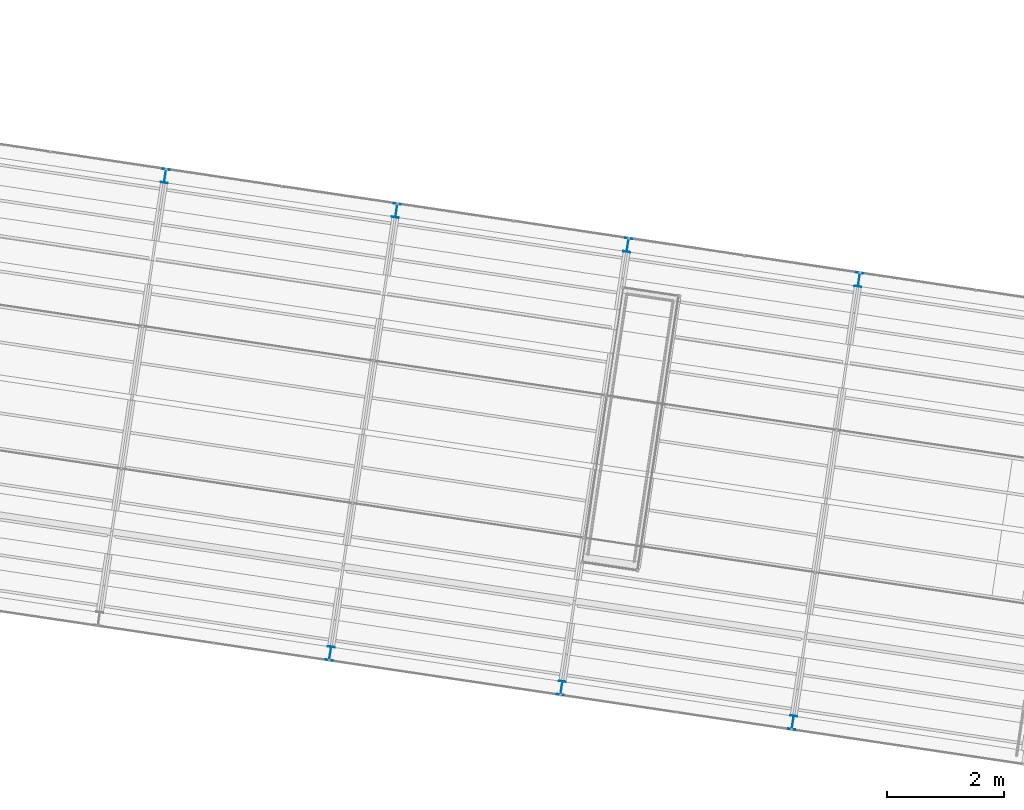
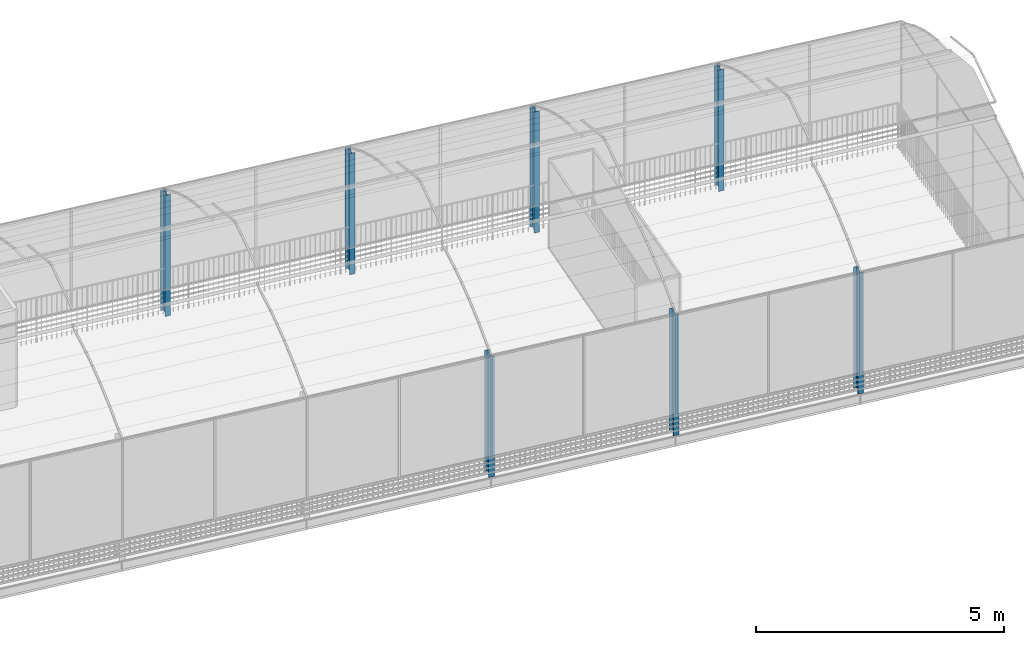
# One storey, part 2 of 34: 7 columns.
"""IFC4 building model written with IfcOpenShell, lengths in metres."""

import ifcopenshell
import ifcopenshell.guid

model = None  # the IFC model being written
_history = None  # IfcOwnerHistory: only IFC2X3 demands one
_inside = {}  # id of a spatial element -> (the spatial element, [elements in it])
_under = {}  # id of a project, library or spatial element -> (it, [spatial elements below it])
_declared = {}  # id of a project -> (the project, [libraries it declares])
_typed = {}  # id of a type object -> (the type object, [elements of that type])
_made_of = {}  # id of a material, layer set ... -> (it, [elements and type objects made of it])


def new_model(schema):
    """Start an empty IFC model of exactly this schema.

    Asked for "IFC4X3", IfcOpenShell would pick the latest addendum, in which some entities
    have other attributes; the version numbers below select the first issue.
    IFC2X3 requires an IfcOwnerHistory on every rooted entity: one is made here for all.
    """
    global model, _history
    if schema == "IFC4X3":
        model = ifcopenshell.file(schema_version=(4, 3, 0, 0))
    else:
        model = ifcopenshell.file(schema=schema)
    _inside.clear()
    _under.clear()
    _declared.clear()
    _typed.clear()
    _made_of.clear()
    _history = None
    if model.schema == "IFC2X3":
        org = make("IfcOrganization", Name="unknown")
        user = make(
            "IfcPersonAndOrganization",
            ThePerson=make("IfcPerson", FamilyName="unknown"),
            TheOrganization=org,
        )
        app = make(
            "IfcApplication",
            ApplicationDeveloper=org,
            Version="unknown",
            ApplicationFullName="unknown",
            ApplicationIdentifier="unknown",
        )
        _history = make(
            "IfcOwnerHistory",
            OwningUser=user,
            OwningApplication=app,
            ChangeAction="ADDED",
            CreationDate=0,
        )
    return model


def make(cls, **values):
    """One entity of the class cls with the attributes given. An attribute that is None is left unset."""
    return model.create_entity(
        cls, **{name: value for name, value in values.items() if value is not None}
    )


def rooted(cls, **values):
    """An entity with a GlobalId (a new one), such as an element, a storey or a relation."""
    return make(cls, GlobalId=ifcopenshell.guid.new(), OwnerHistory=_history, **values)


def si_unit(unit_type, name, prefix=None):
    """IfcSIUnit, for example si_unit("LENGTHUNIT", "METRE", prefix="MILLI")."""
    return make("IfcSIUnit", UnitType=unit_type, Prefix=prefix, Name=name)


def assignment(units):
    """IfcUnitAssignment: the units of a project."""
    return None if units is None else make("IfcUnitAssignment", Units=units)


def point(xyz):
    """IfcCartesianPoint."""
    return None if xyz is None else make("IfcCartesianPoint", Coordinates=xyz)


def direction(xyz):
    """IfcDirection."""
    return None if xyz is None else make("IfcDirection", DirectionRatios=xyz)


def frame(location, z_axis=None, x_axis=None):
    """IfcAxis2Placement3D, a coordinate frame: its origin and axes. An axis left out is left unset."""
    return make(
        "IfcAxis2Placement3D",
        Location=point(location),
        Axis=direction(z_axis),
        RefDirection=direction(x_axis),
    )


def origin_with_axes():
    """The frame at (0, 0, 0) with the z axis (0, 0, 1) and the x axis (1, 0, 0) written out."""
    return frame((0.0, 0.0, 0.0), z_axis=(0.0, 0.0, 1.0), x_axis=(1.0, 0.0, 0.0))


def place(relative_to, where):
    """IfcLocalPlacement: puts the frame where relative to a parent placement (None: the world)."""
    return make(
        "IfcLocalPlacement", PlacementRelTo=relative_to, RelativePlacement=where
    )


def context(
    kind, dimensions, precision=None, world=None, true_north=None, identifier=None
):
    """IfcGeometricRepresentationContext, for example the 3D "Model" context."""
    return make(
        "IfcGeometricRepresentationContext",
        ContextIdentifier=identifier,
        ContextType=kind,
        CoordinateSpaceDimension=dimensions,
        Precision=precision,
        WorldCoordinateSystem=world,
        TrueNorth=true_north,
    )


def subcontext(parent, identifier, kind, view, scale=None):
    """IfcGeometricRepresentationSubContext, for example "Body" below "Model"."""
    return make(
        "IfcGeometricRepresentationSubContext",
        ContextIdentifier=identifier,
        ContextType=kind,
        ParentContext=parent,
        TargetScale=scale,
        TargetView=view,
    )


def project(units=None, contexts=None):
    """IfcProject with its units and contexts."""
    return rooted(
        "IfcProject",
        Name="project",
        RepresentationContexts=contexts,
        UnitsInContext=assignment(units),
    )


def spatial(cls, under=None, at=None, **own):
    """A site, building, storey or space (cls), placed at a placement, below another one or the project."""
    s = rooted(cls, ObjectPlacement=at, **own)
    if under is not None:
        _under.setdefault(under.id(), (under, []))[1].append(s)
    return s


def profile(cls, at=None, kind="AREA", **sizes):
    """A parametric profile (cls). Its sizes go by their IFC names, for example OverallWidth=200.0."""
    return make(cls, ProfileType=kind, Position=at, **sizes)


def i_section(**sizes):
    """IfcIShapeProfileDef."""
    return profile("IfcIShapeProfileDef", **sizes)


def extrude(swept, where, along, depth):
    """IfcExtrudedAreaSolid: the profile swept, set in the frame where, extruded along a direction by depth."""
    return make(
        "IfcExtrudedAreaSolid",
        SweptArea=swept,
        Position=where,
        ExtrudedDirection=direction(along),
        Depth=depth,
    )


def shape(context_of_items, identifier, shape_type, items):
    """IfcShapeRepresentation: the items that make up one representation, for example the "Body"."""
    return make(
        "IfcShapeRepresentation",
        ContextOfItems=context_of_items,
        RepresentationIdentifier=identifier,
        RepresentationType=shape_type,
        Items=items,
    )


def material(Name=None, Category=None):
    """IfcMaterial."""
    return make("IfcMaterial", Name=Name, Category=Category)


def material_profile(
    of_material, cross_section, Name=None, Category=None, Priority=None
):
    """IfcMaterialProfile: a cross section and its material."""
    return make(
        "IfcMaterialProfile",
        Name=Name,
        Material=of_material,
        Profile=cross_section,
        Priority=Priority,
        Category=Category,
    )


def profile_set(profiles, Name=None, composite=None):
    """IfcMaterialProfileSet."""
    return make(
        "IfcMaterialProfileSet",
        Name=Name,
        MaterialProfiles=profiles,
        CompositeProfile=composite,
    )


def profile_usage(for_profile_set, cardinal=None, extent=None):
    """IfcMaterialProfileSetUsage: how a profile set lies along its element."""
    return make(
        "IfcMaterialProfileSetUsage",
        ForProfileSet=for_profile_set,
        CardinalPoint=cardinal,
        ReferenceExtent=extent,
    )


def made_of(thing, what):
    """Note that an element or type object is made of a material, layer set ...; save() writes the relation."""
    if what is not None:
        _made_of.setdefault(what.id(), (what, []))[1].append(thing)
    return thing


def type_object(cls, material=None, **own):
    """A type object (cls), such as IfcWallType, which elements share."""
    return made_of(rooted(cls, **own), material)


def element(
    cls,
    number,
    at=None,
    inside=None,
    cuts=None,
    type_object=None,
    material=None,
    context=None,
    identifier="Body",
    shape_type=None,
    held_by="IfcProductDefinitionShape",
    body=None,
    shapes=None,
    **own,
):
    """One element of the class cls, such as IfcWall. Its Tag is "e" and its number.

    at: its placement. inside: the storey or other place that contains it. cuts: it is an
    opening in that element (IfcRelVoidsElement). A single representation is given by context,
    identifier, shape_type and body (its items); several are given by shapes. held_by: the class
    of the entity that holds the representations. save() writes the other relations.
    """
    e = rooted(cls, Tag="e%d" % number, ObjectPlacement=at, **own)
    if body is not None:
        shapes = [shape(context, identifier, shape_type, body)]
    if shapes is not None:
        e.Representation = make(held_by, Representations=shapes)
    if inside is not None:
        _inside.setdefault(inside.id(), (inside, []))[1].append(e)
    if cuts is not None:
        rooted(
            "IfcRelVoidsElement", RelatingBuildingElement=cuts, RelatedOpeningElement=e
        )
    if type_object is not None:
        _typed.setdefault(type_object.id(), (type_object, []))[1].append(e)
    return made_of(e, material)


def aggregate(whole, parts):
    """IfcRelAggregates: a whole, such as a stair, and the parts it consists of."""
    return rooted("IfcRelAggregates", RelatingObject=whole, RelatedObjects=parts)


def save(model, path):
    """Write the relations noted so far, then the file.

    IfcRelAggregates (storeys below a building ...), IfcRelContainedInSpatialStructure (elements
    in a storey), IfcRelDefinesByType, IfcRelAssociatesMaterial and IfcRelDeclares: one each for
    every whole, place, type object, material and project.
    """
    for whole, parts in _under.values():
        aggregate(whole, parts)
    for where, things in _inside.values():
        rooted(
            "IfcRelContainedInSpatialStructure",
            RelatedElements=things,
            RelatingStructure=where,
        )
    for kind, things in _typed.values():
        rooted("IfcRelDefinesByType", RelatedObjects=things, RelatingType=kind)
    for what, things in _made_of.values():
        rooted("IfcRelAssociatesMaterial", RelatedObjects=things, RelatingMaterial=what)
    for by, libraries in _declared.values():
        rooted("IfcRelDeclares", RelatingContext=by, RelatedDefinitions=libraries)
    model.write(path)


model = new_model("IFC4")

# Units and contexts
model_context = context("Model", 3, precision=1e-05, world=origin_with_axes(), true_north=direction((0.0, 1.0)))
body_context = subcontext(model_context, "Body", "Model", "MODEL_VIEW")
ifc_project = project(units=[si_unit("VOLUMEUNIT", "CUBIC_METRE"), si_unit("LENGTHUNIT", "METRE"), si_unit("AREAUNIT", "SQUARE_METRE")], contexts=[model_context])

# Site, building, storey
site_placement = place(None, origin_with_axes())
site = spatial("IfcSite", under=ifc_project, at=site_placement, Name="Lares · Rua das Mercês · artigo 4771")
building_placement = place(site_placement, frame((12.0, 10.2, 13.9), z_axis=(0.0, 0.0, 1.0), x_axis=(0.989015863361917, -0.147809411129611, 0.0)))
building = spatial("IfcBuilding", under=site, at=building_placement, Name="Casa Sobreposta")
storey_placement = place(building_placement, frame((0.0, 0.0, 3.24), z_axis=(0.0, 0.0, 1.0), x_axis=(1.0, 0.0, 0.0)))
storey = spatial("IfcBuildingStorey", under=building, at=storey_placement, Name="01 · Jardim de inverno", Elevation=17.14)

# Columns
ifc_material = material(Name="Aço pintado / Stahl lackiert", Category="steel")
ifc_material_profile = material_profile(ifc_material, i_section(OverallWidth=0.12, OverallDepth=0.24, WebThickness=0.0062, FlangeThickness=0.0098))
ifc_profile_set = profile_set([ifc_material_profile], Name="IPE240")
ifc_profile_usage_1 = profile_usage(ifc_profile_set)
column_type = type_object("IfcColumnType", Name="IPE240 / steel", PredefinedType="NOTDEFINED", material=ifc_profile_set)
column_1_placement = place(storey_placement, frame((16.0, 6.28, 0.0), z_axis=(0.0, 0.0, 1.0), x_axis=(1.0, 0.0, 0.0)))
element("IfcColumn", 1, at=column_1_placement, inside=storey, type_object=column_type, material=ifc_profile_usage_1, Name="Pilar estufa 5B · IPE240", context=body_context, shape_type="SweptSolid", body=[
    extrude(i_section(OverallWidth=0.12, OverallDepth=0.24, WebThickness=0.0062, FlangeThickness=0.0098), origin_with_axes(), (0.0, 0.0, 1.0), 2.98),
])
ifc_profile_usage_2 = profile_usage(ifc_profile_set)
column_2_placement = place(storey_placement, frame((20.0, -1.38, 0.0), z_axis=(0.0, 0.0, 1.0), x_axis=(1.0, 0.0, 0.0)))
element("IfcColumn", 2, at=column_2_placement, inside=storey, type_object=column_type, material=ifc_profile_usage_2, Name="Pilar estufa 6A · IPE240", context=body_context, shape_type="SweptSolid", body=[
    extrude(i_section(OverallWidth=0.12, OverallDepth=0.24, WebThickness=0.0062, FlangeThickness=0.0098), origin_with_axes(), (0.0, 0.0, 1.0), 2.98),
])
ifc_profile_usage_3 = profile_usage(ifc_profile_set)
column_3_placement = place(storey_placement, frame((20.0, 6.28, 0.0), z_axis=(0.0, 0.0, 1.0), x_axis=(1.0, 0.0, 0.0)))
element("IfcColumn", 3, at=column_3_placement, inside=storey, type_object=column_type, material=ifc_profile_usage_3, Name="Pilar estufa 6B · IPE240", context=body_context, shape_type="SweptSolid", body=[
    extrude(i_section(OverallWidth=0.12, OverallDepth=0.24, WebThickness=0.0062, FlangeThickness=0.0098), origin_with_axes(), (0.0, 0.0, 1.0), 2.98),
])
ifc_profile_usage_4 = profile_usage(ifc_profile_set)
column_4_placement = place(storey_placement, frame((24.0, -1.38, 0.0), z_axis=(0.0, 0.0, 1.0), x_axis=(1.0, 0.0, 0.0)))
element("IfcColumn", 4, at=column_4_placement, inside=storey, type_object=column_type, material=ifc_profile_usage_4, Name="Pilar estufa 7A · IPE240", context=body_context, shape_type="SweptSolid", body=[
    extrude(i_section(OverallWidth=0.12, OverallDepth=0.24, WebThickness=0.0062, FlangeThickness=0.0098), origin_with_axes(), (0.0, 0.0, 1.0), 2.98),
])
ifc_profile_usage_5 = profile_usage(ifc_profile_set)
column_5_placement = place(storey_placement, frame((24.0, 6.28, 0.0), z_axis=(0.0, 0.0, 1.0), x_axis=(1.0, 0.0, 0.0)))
element("IfcColumn", 5, at=column_5_placement, inside=storey, type_object=column_type, material=ifc_profile_usage_5, Name="Pilar estufa 7B · IPE240", context=body_context, shape_type="SweptSolid", body=[
    extrude(i_section(OverallWidth=0.12, OverallDepth=0.24, WebThickness=0.0062, FlangeThickness=0.0098), origin_with_axes(), (0.0, 0.0, 1.0), 2.98),
])
ifc_profile_usage_6 = profile_usage(ifc_profile_set)
column_6_placement = place(storey_placement, frame((28.0, -1.38, 0.0), z_axis=(0.0, 0.0, 1.0), x_axis=(1.0, 0.0, 0.0)))
element("IfcColumn", 6, at=column_6_placement, inside=storey, type_object=column_type, material=ifc_profile_usage_6, Name="Pilar estufa 8A · IPE240", context=body_context, shape_type="SweptSolid", body=[
    extrude(i_section(OverallWidth=0.12, OverallDepth=0.24, WebThickness=0.0062, FlangeThickness=0.0098), origin_with_axes(), (0.0, 0.0, 1.0), 2.98),
])
ifc_profile_usage_7 = profile_usage(ifc_profile_set)
column_7_placement = place(storey_placement, frame((28.0, 6.28, 0.0), z_axis=(0.0, 0.0, 1.0), x_axis=(1.0, 0.0, 0.0)))
element("IfcColumn", 7, at=column_7_placement, inside=storey, type_object=column_type, material=ifc_profile_usage_7, Name="Pilar estufa 8B · IPE240", context=body_context, shape_type="SweptSolid", body=[
    extrude(i_section(OverallWidth=0.12, OverallDepth=0.24, WebThickness=0.0062, FlangeThickness=0.0098), origin_with_axes(), (0.0, 0.0, 1.0), 2.98),
])

save(model, "model.ifc")
